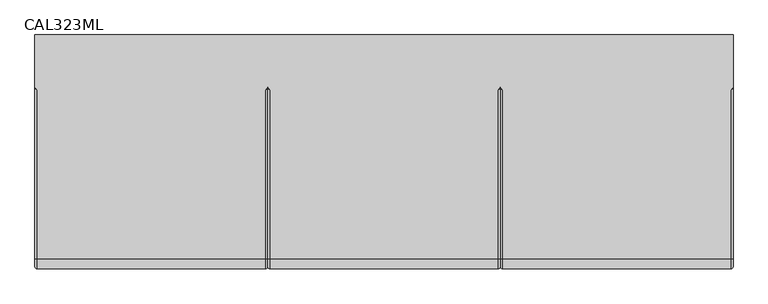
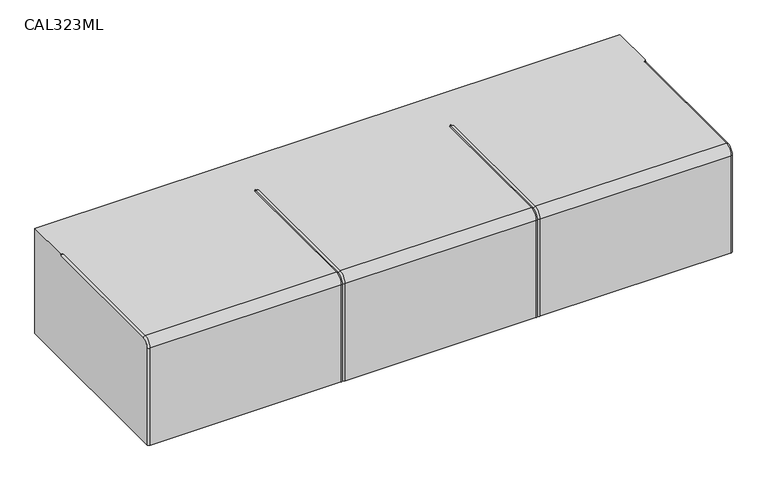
"""IFC4 building model written with IfcOpenShell, lengths in millimetres: furniture geometry, Stance_Healthacare-Carlson-Arm_Chair : CAL323ML."""

from ifc_helpers import new_model, si_unit, point, frame, origin, place, context, project, spatial, circle_curve, ellipse_curve, trimmed, source, transform, mapped, element, save
from ifc_brep_helpers import plane_surface, cylinder_surface, revolved_surface, advanced_brep


def cal323ml_525b75bf(model_context):
    return source(origin(), model_context, "Body", "AdvancedBrep", [
        advanced_brep(
        [(876.3, 246.7364918, 120.649997), (876.3, 246.7364918, 454.025), (876.3, 115.9444954, 454.025), (876.3, 113.8812553, 447.675), (876.3, -315.1640295, 447.675), (876.3, -334.2140295, 428.625), (876.3, -334.2140295, 120.649997), (-876.3, 246.7364918, 454.025), (-876.3, 246.7364918, 120.649997), (-876.3, -334.2140295, 120.649997), (-876.3, -334.2140295, 428.625), (-876.3, -315.1640295, 447.675), (-876.3, 113.8812553, 447.675), (-876.3, 115.9444954, 454.025), (-869.95, -340.5640295, 428.625), (-869.95, -340.5640295, 120.649997), (-298.45, -340.5640295, 120.649997), (-298.45, -340.5640295, 428.625), (869.95, -340.5640295, 120.649997), (869.95, -340.5640295, 428.625), (298.45, -340.5640295, 428.625), (298.45, -340.5640295, 120.649997), (-285.75, -340.5640295, 428.625), (-285.75, -340.5640295, 120.649997), (285.75, -340.5640295, 120.649997), (285.75, -340.5640295, 428.625), (292.1, -334.2140295, 120.649997), (-292.1, -334.2140295, 120.649997), (-869.95, 109.2677103, 454.025), (-869.95, -315.1640295, 454.025), (-298.45, -315.1640295, 454.025), (-298.45, 109.2677103, 454.025), (-292.1, 115.9444954, 454.025), (-285.75, 109.2677103, 454.025), (-285.75, -315.1640295, 454.025), (285.75, -315.1640295, 454.025), (285.75, 109.2677103, 454.025), (292.1, 115.9444954, 454.025), (298.45, 109.2677103, 454.025), (298.45, -315.1640295, 454.025), (869.95, -315.1640295, 454.025), (869.95, 109.2677103, 454.025), (-292.1, 113.8812553, 447.675), (-292.1, -315.1640295, 447.675), (-292.1, -334.2140295, 428.625), (292.1, 113.8812553, 447.675), (292.1, -315.1640295, 447.675), (292.1, -334.2140295, 428.625)],
        [
            (0, 1),
            (1, 2),
            (2, 3),
            (3, 4),
            (4, 5, circle_curve(frame((876.3, -315.1640295, 428.625), z_axis=(1.0, 0.0, 0.0), x_axis=(0.0, 0.0, 1.0)), 19.05)),
            (5, 6),
            (6, 0),
            (7, 8),
            (8, 9),
            (9, 10),
            (10, 11, circle_curve(frame((-876.3, -315.1640295, 428.625), z_axis=(-1.0, 0.0, 0.0), x_axis=(0.0, 0.0, 1.0)), 19.05)),
            (11, 12),
            (12, 13),
            (13, 7),
            (14, 15),
            (15, 16),
            (16, 17),
            (17, 14),
            (18, 19),
            (19, 20),
            (20, 21),
            (21, 18),
            (22, 23),
            (23, 24),
            (24, 25),
            (25, 22),
            (8, 0),
            (6, 18, circle_curve(frame((869.95, -334.2140295, 120.649997), z_axis=(0.0, 0.0, -1.0), x_axis=(0.0, 1.0, 0.0)), 6.35)),
            (21, 26, circle_curve(frame((298.45, -334.2140295, 120.649997), z_axis=(0.0, 0.0, -1.0), x_axis=(0.0, 1.0, 0.0)), 6.35)),
            (26, 24, circle_curve(frame((285.75, -334.2140295, 120.649997), z_axis=(0.0, 0.0, -1.0), x_axis=(0.0, 1.0, 0.0)), 6.35)),
            (23, 27, circle_curve(frame((-285.75, -334.2140295, 120.649997), z_axis=(0.0, 0.0, -1.0), x_axis=(0.0, 1.0, 0.0)), 6.35)),
            (27, 16, circle_curve(frame((-298.45, -334.2140295, 120.649997), z_axis=(0.0, 0.0, -1.0), x_axis=(0.0, 1.0, 0.0)), 6.35)),
            (15, 9, circle_curve(frame((-869.95, -334.2140295, 120.649997), z_axis=(0.0, 0.0, -1.0), x_axis=(0.0, 1.0, 0.0)), 6.35)),
            (1, 7),
            (13, 28, ellipse_curve(frame((-869.95, 115.9444954, 454.025), z_axis=(0.0, 0.0, 1.0), x_axis=(0.0, -1.0, 0.0)), 6.6767851, 6.35)),
            (28, 29),
            (29, 30),
            (30, 31),
            (31, 32, ellipse_curve(frame((-298.45, 115.9444954, 454.025), z_axis=(0.0, 0.0, 1.0), x_axis=(0.0, -1.0, 0.0)), 6.6767851, 6.35)),
            (32, 33, ellipse_curve(frame((-285.75, 115.9444954, 454.025), z_axis=(0.0, 0.0, 1.0), x_axis=(0.0, -1.0, 0.0)), 6.6767851, 6.35)),
            (33, 34),
            (34, 35),
            (35, 36),
            (36, 37, ellipse_curve(frame((285.75, 115.9444954, 454.025), z_axis=(0.0, 0.0, 1.0), x_axis=(0.0, -1.0, 0.0)), 6.6767851, 6.35)),
            (37, 38, ellipse_curve(frame((298.45, 115.9444954, 454.025), z_axis=(0.0, 0.0, 1.0), x_axis=(0.0, -1.0, 0.0)), 6.6767851, 6.35)),
            (38, 39),
            (39, 40),
            (40, 41),
            (41, 2, ellipse_curve(frame((869.95, 115.9444954, 454.025), z_axis=(0.0, 0.0, 1.0), x_axis=(0.0, -1.0, 0.0)), 6.6767851, 6.35)),
            (40, 4, circle_curve(frame((869.95, -315.1640295, 447.675), z_axis=(0.0, 1.0, 0.0), x_axis=(0.0, 0.0, -1.0)), 6.35)),
            (3, 41, ellipse_curve(frame((869.95, 113.8812553, 447.675), z_axis=(0.0, -0.8090169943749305, -0.5877852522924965), x_axis=(0.0, -0.5877852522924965, 0.8090169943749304)), 7.8490317, 6.35)),
            (11, 29, circle_curve(frame((-869.95, -315.1640295, 447.675), z_axis=(0.0, 1.0, 0.0), x_axis=(0.0, 0.0, -1.0)), 6.35)),
            (28, 12, ellipse_curve(frame((-869.95, 113.8812553, 447.675), z_axis=(0.0, -0.8090169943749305, -0.5877852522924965), x_axis=(0.0, -0.5877852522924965, 0.8090169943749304)), 7.8490317, 6.35)),
            (29, 14, circle_curve(frame((-869.95, -315.1640295, 428.625), z_axis=(1.0, 0.0, 0.0), x_axis=(0.0, 1.0, 0.0)), 25.4)),
            (17, 30, circle_curve(frame((-298.45, -315.1640295, 428.625), z_axis=(-1.0, 0.0, 0.0), x_axis=(0.0, 1.0, 0.0)), 25.4)),
            (19, 40, circle_curve(frame((869.95, -315.1640295, 428.625), z_axis=(-1.0, 0.0, 0.0), x_axis=(0.0, 1.0, 0.0)), 25.4)),
            (39, 20, circle_curve(frame((298.45, -315.1640295, 428.625), z_axis=(1.0, 0.0, 0.0), x_axis=(0.0, 1.0, 0.0)), 25.4)),
            (34, 22, circle_curve(frame((-285.75, -315.1640295, 428.625), z_axis=(1.0, 0.0, 0.0), x_axis=(0.0, 1.0, 0.0)), 25.4)),
            (25, 35, circle_curve(frame((285.75, -315.1640295, 428.625), z_axis=(-1.0, 0.0, 0.0), x_axis=(0.0, 1.0, 0.0)), 25.4)),
            (10, 14, circle_curve(frame((-869.95, -334.2140295, 428.625), z_axis=(0.0, 0.0, 1.0), x_axis=(0.0, 1.0, 0.0)), 6.35)),
            (19, 5, circle_curve(frame((869.95, -334.2140295, 428.625), z_axis=(0.0, 0.0, 1.0), x_axis=(0.0, 1.0, 0.0)), 6.35)),
            (42, 43),
            (43, 34, circle_curve(frame((-285.75, -315.1640295, 447.675), z_axis=(0.0, 1.0, 0.0), x_axis=(0.0, 0.0, -1.0)), 6.35)),
            (33, 42, ellipse_curve(frame((-285.75, 113.8812553, 447.675), z_axis=(0.0, -0.8090169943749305, -0.5877852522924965), x_axis=(0.0, -0.5877852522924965, 0.8090169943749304)), 7.8490317, 6.35)),
            (42, 31, ellipse_curve(frame((-298.45, 113.8812553, 447.675), z_axis=(0.0, -0.8090169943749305, -0.5877852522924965), x_axis=(0.0, -0.5877852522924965, 0.8090169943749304)), 7.8490317, 6.35)),
            (30, 43, circle_curve(frame((-298.45, -315.1640295, 447.675), z_axis=(0.0, 1.0, 0.0), x_axis=(0.0, 0.0, -1.0)), 6.35)),
            (43, 44, circle_curve(frame((-292.1, -315.1640295, 428.625), z_axis=(1.0, 0.0, 0.0), x_axis=(0.0, 0.0, 1.0)), 19.05)),
            (44, 22, circle_curve(frame((-285.75, -334.2140295, 428.625), z_axis=(0.0, 0.0, 1.0), x_axis=(0.0, 1.0, 0.0)), 6.35)),
            (17, 44, circle_curve(frame((-298.45, -334.2140295, 428.625), z_axis=(0.0, 0.0, 1.0), x_axis=(0.0, 1.0, 0.0)), 6.35)),
            (44, 27),
            (32, 42),
            (45, 46),
            (46, 39, circle_curve(frame((298.45, -315.1640295, 447.675), z_axis=(0.0, 1.0, 0.0), x_axis=(0.0, 0.0, -1.0)), 6.35)),
            (38, 45, ellipse_curve(frame((298.45, 113.8812553, 447.675), z_axis=(0.0, -0.8090169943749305, -0.5877852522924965), x_axis=(0.0, -0.5877852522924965, 0.8090169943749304)), 7.8490317, 6.35)),
            (45, 36, ellipse_curve(frame((285.75, 113.8812553, 447.675), z_axis=(0.0, -0.8090169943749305, -0.5877852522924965), x_axis=(0.0, -0.5877852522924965, 0.8090169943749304)), 7.8490317, 6.35)),
            (35, 46, circle_curve(frame((285.75, -315.1640295, 447.675), z_axis=(0.0, 1.0, 0.0), x_axis=(0.0, 0.0, -1.0)), 6.35)),
            (46, 47, circle_curve(frame((292.1, -315.1640295, 428.625), z_axis=(1.0, 0.0, 0.0), x_axis=(0.0, 0.0, 1.0)), 19.05)),
            (47, 20, circle_curve(frame((298.45, -334.2140295, 428.625), z_axis=(0.0, 0.0, 1.0), x_axis=(0.0, 1.0, 0.0)), 6.35)),
            (25, 47, circle_curve(frame((285.75, -334.2140295, 428.625), z_axis=(0.0, 0.0, 1.0), x_axis=(0.0, 1.0, 0.0)), 6.35)),
            (47, 26),
            (37, 45),
        ],
        [
            plane_surface(frame((876.3, -289.7640295, 428.625), z_axis=(1.0, 0.0, 0.0), x_axis=(0.0, 0.0, 1.0))),
            plane_surface(frame((-876.3, -289.7640295, 428.625), z_axis=(-1.0, 0.0, 0.0), x_axis=(0.0, 0.0, -1.0))),
            plane_surface(frame((876.3, -340.5640295, 428.625), z_axis=(0.0, -1.0, 0.0), x_axis=(-1.0, 0.0, 0.0))),
            plane_surface(frame((876.3, -340.5640295, 120.649997), z_axis=(0.0, 0.0, -1.0), x_axis=(-1.0, 0.0, 0.0))),
            plane_surface(frame((876.3, 246.7364918, 454.025), z_axis=(0.0, 0.0, 1.0), x_axis=(-1.0, 0.0, 0.0))),
            cylinder_surface(frame((869.95, 109.2677103, 447.675), z_axis=(0.0, -1.0, 0.0), x_axis=(0.0, 0.0, -1.0)), 6.35),
            cylinder_surface(frame((-869.95, 109.2677103, 447.675), z_axis=(0.0, -1.0, 0.0), x_axis=(0.0, 0.0, -1.0)), 6.35),
            cylinder_surface(frame((-876.3, -315.1640295, 428.625), z_axis=(1.0, 0.0, 0.0), x_axis=(0.0, 1.0, 0.0)), 25.4),
            plane_surface(frame((876.3, 246.7364918, 120.649997), z_axis=(0.0, 1.0, 0.0), x_axis=(-1.0, 0.0, 0.0))),
            revolved_surface(trimmed(ellipse_curve(frame((-869.95, -315.1640295, 447.675), z_axis=(0.0, 1.0, 0.0), x_axis=(0.0, 0.0, -1.0)), 6.35, 6.35), [point((-876.3, -315.1640295, 447.675))], [point((-869.95, -315.1640295, 454.025))], True, "CARTESIAN"), (-876.3, -315.1640295, 428.625), (1.0, 0.0, 0.0)),
            cylinder_surface(frame((-869.95, -334.2140295, 428.625), z_axis=(0.0, 0.0, -1.0), x_axis=(0.0, 1.0, 0.0)), 6.35),
            revolved_surface(trimmed(ellipse_curve(frame((869.95, -315.1640295, 447.675), z_axis=(0.0, 1.0, 0.0), x_axis=(0.0, 0.0, -1.0)), 6.35, 6.35), [point((869.95, -315.1640295, 454.025))], [point((876.3, -315.1640295, 447.675))], True, "CARTESIAN"), (876.3, -315.1640295, 428.625), (1.0, 0.0, 0.0)),
            cylinder_surface(frame((869.95, -334.2140295, 428.625), z_axis=(0.0, 0.0, -1.0), x_axis=(0.0, 1.0, 0.0)), 6.35),
            cylinder_surface(frame((-869.95, 235.6213022, 822.3523382), z_axis=(0.0, -0.3090169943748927, -0.9510565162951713), x_axis=(0.0, 0.9510565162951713, -0.3090169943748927)), 6.35),
            cylinder_surface(frame((869.95, 235.6213022, 822.3523382), z_axis=(0.0, -0.3090169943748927, -0.9510565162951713), x_axis=(0.0, 0.9510565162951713, -0.3090169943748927)), 6.35),
            cylinder_surface(frame((-285.75, 109.2677103, 447.675), z_axis=(0.0, -1.0, 0.0), x_axis=(0.0, 0.0, -1.0)), 6.35),
            cylinder_surface(frame((-298.45, 109.2677103, 447.675), z_axis=(0.0, -1.0, 0.0), x_axis=(0.0, 0.0, -1.0)), 6.35),
            revolved_surface(trimmed(ellipse_curve(frame((-285.75, -315.1640295, 447.675), z_axis=(0.0, 1.0, 0.0), x_axis=(0.0, 0.0, -1.0)), 6.35, 6.35), [point((-292.1, -315.1640295, 447.675))], [point((-285.75, -315.1640295, 454.025))], True, "CARTESIAN"), (-292.1, -315.1640295, 428.625), (1.0, 0.0, 0.0)),
            revolved_surface(trimmed(ellipse_curve(frame((-298.45, -315.1640295, 447.675), z_axis=(0.0, 1.0, 0.0), x_axis=(0.0, 0.0, -1.0)), 6.35, 6.35), [point((-298.45, -315.1640295, 454.025))], [point((-292.1, -315.1640295, 447.675))], True, "CARTESIAN"), (-292.1, -315.1640295, 428.625), (1.0, 0.0, 0.0)),
            cylinder_surface(frame((-285.75, -334.2140295, 428.625), z_axis=(0.0, 0.0, -1.0), x_axis=(0.0, 1.0, 0.0)), 6.35),
            cylinder_surface(frame((-298.45, -334.2140295, 428.625), z_axis=(0.0, 0.0, -1.0), x_axis=(0.0, 1.0, 0.0)), 6.35),
            cylinder_surface(frame((-285.75, 235.6213022, 822.3523382), z_axis=(0.0, -0.3090169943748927, -0.9510565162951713), x_axis=(0.0, 0.9510565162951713, -0.3090169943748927)), 6.35),
            cylinder_surface(frame((-298.45, 235.6213022, 822.3523382), z_axis=(0.0, -0.3090169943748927, -0.9510565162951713), x_axis=(0.0, 0.9510565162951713, -0.3090169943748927)), 6.35),
            cylinder_surface(frame((298.45, 109.2677103, 447.675), z_axis=(0.0, -1.0, 0.0), x_axis=(0.0, 0.0, -1.0)), 6.35),
            cylinder_surface(frame((285.75, 109.2677103, 447.675), z_axis=(0.0, -1.0, 0.0), x_axis=(0.0, 0.0, -1.0)), 6.35),
            revolved_surface(trimmed(ellipse_curve(frame((298.45, -315.1640295, 447.675), z_axis=(0.0, 1.0, 0.0), x_axis=(0.0, 0.0, -1.0)), 6.35, 6.35), [point((292.1, -315.1640295, 447.675))], [point((298.45, -315.1640295, 454.025))], True, "CARTESIAN"), (292.1, -315.1640295, 428.625), (1.0, 0.0, 0.0)),
            revolved_surface(trimmed(ellipse_curve(frame((285.75, -315.1640295, 447.675), z_axis=(0.0, 1.0, 0.0), x_axis=(0.0, 0.0, -1.0)), 6.35, 6.35), [point((285.75, -315.1640295, 454.025))], [point((292.1, -315.1640295, 447.675))], True, "CARTESIAN"), (292.1, -315.1640295, 428.625), (1.0, 0.0, 0.0)),
            cylinder_surface(frame((298.45, -334.2140295, 428.625), z_axis=(0.0, 0.0, -1.0), x_axis=(0.0, 1.0, 0.0)), 6.35),
            cylinder_surface(frame((285.75, -334.2140295, 428.625), z_axis=(0.0, 0.0, -1.0), x_axis=(0.0, 1.0, 0.0)), 6.35),
            cylinder_surface(frame((298.45, 235.6213022, 822.3523382), z_axis=(0.0, -0.3090169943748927, -0.9510565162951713), x_axis=(0.0, 0.9510565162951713, -0.3090169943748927)), 6.35),
            cylinder_surface(frame((285.75, 235.6213022, 822.3523382), z_axis=(0.0, -0.3090169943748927, -0.9510565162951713), x_axis=(0.0, 0.9510565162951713, -0.3090169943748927)), 6.35),
        ],
        [
            (0, [[1, 2, 3, 4, 5, 6, 7]]),
            (1, [[8, 9, 10, 11, 12, 13, 14]]),
            (2, [[15, 16, 17, 18]]),
            (2, [[19, 20, 21, 22]]),
            (2, [[23, 24, 25, 26]]),
            (3, [[27, -7, 28, -22, 29, 30, -24, 31, 32, -16, 33, -9]]),
            (4, [[34, -14, 35, 36, 37, 38, 39, 40, 41, 42, 43, 44, 45, 46, 47, 48, 49, -2]]),
            (5, [[50, -4, 51, -48]]),
            (6, [[52, -36, 53, -12]]),
            (7, [[54, -18, 55, -37]]),
            (7, [[56, -47, 57, -20]]),
            (7, [[58, -26, 59, -42]]),
            (8, [[-1, -27, -8, -34]]),
            (9, [[-52, -11, 60, -54]]),
            (10, [[-60, -10, -33, -15]]),
            (11, [[-50, -56, 61, -5]]),
            (12, [[-61, -19, -28, -6]]),
            (13, [[-53, -35, -13]]),
            (14, [[-51, -3, -49]]),
            (15, [[62, 63, -41, 64]]),
            (16, [[-62, 65, -38, 66]]),
            (17, [[-63, 67, 68, -58]]),
            (18, [[-66, -55, 69, -67]]),
            (19, [[-68, 70, -31, -23]]),
            (20, [[-69, -17, -32, -70]]),
            (21, [[-64, -40, 71]]),
            (22, [[-65, -71, -39]]),
            (23, [[72, 73, -46, 74]]),
            (24, [[-72, 75, -43, 76]]),
            (25, [[-73, 77, 78, -57]]),
            (26, [[-76, -59, 79, -77]]),
            (27, [[-78, 80, -29, -21]]),
            (28, [[-79, -25, -30, -80]]),
            (29, [[-74, -45, 81]]),
            (30, [[-75, -81, -44]]),
        ],
    ),
    ])


if __name__ == "__main__":
    model = new_model("IFC4")
    model_context = context("Model", 3, world=origin())
    ifc_project = project(units=[si_unit("LENGTHUNIT", "METRE", prefix="MILLI")], contexts=[model_context])
    site = spatial("IfcSite", under=ifc_project)
    building = spatial("IfcBuilding", under=site)
    placement = place(None, origin())
    cal323ml_shape = cal323ml_525b75bf(model_context)
    element("IfcFurniture", 1, ObjectType="Stance_Healthacare-Carlson-Arm_Chair : CAL323ML", at=placement, inside=building, context=model_context, shape_type="MappedRepresentation", body=[
        mapped(cal323ml_shape, transform((0.0, 0.0, 0.0), x_axis=(1.0, 0.0, 0.0), y_axis=(0.0, 1.0, 0.0), z_axis=(0.0, 0.0, 1.0))),
    ])
    save(model, "model.ifc")
